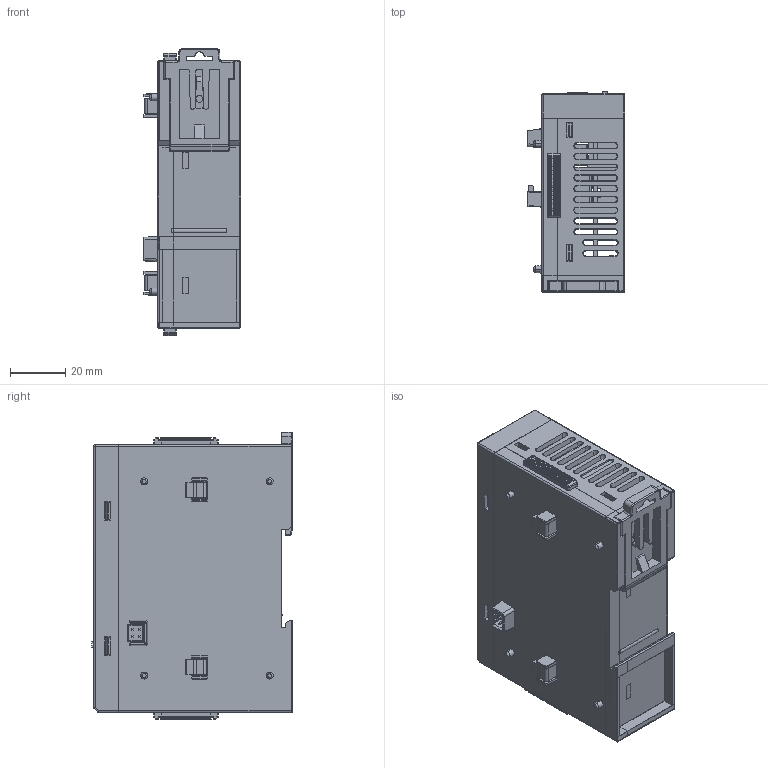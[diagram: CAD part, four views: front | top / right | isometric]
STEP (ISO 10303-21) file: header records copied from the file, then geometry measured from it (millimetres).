
FILE_DESCRIPTION((''),'2;1');
FILE_NAME('PLC-EXT-SIDE-ASM_ASM_ASM','2022-11-09T',('samkoon'),(''),'PRO/ENGINEER BY PARAMETRIC TECHNOLOGY CORPORATION, 2015240','PRO/ENGINEER BY PARAMETRIC TECHNOLOGY CORPORATION, 2015240','');
FILE_SCHEMA(('AUTOMOTIVE_DESIGN { 1 0 10303 214 1 1 1 1 }'));
Products named in the file (26): BOT-COVER-PLC-40IO-220228SIDE1_; TOP-COVER-PLC-EXT-SIDE_312; LEFT-COVER-PLC-EXT-SIDE_244; RIGHT-COVER-PLC-EXT-SIDE_300; PCB-DUAN-EXT-SIDE_75; 350-2PIN-NONESCREW_14; TERM-2PIN-TL_3; 381-10PIN-NONESCREW-MALE_16; PIN-SIDE-MALE_25; PCBA-DUAN-EXT-SIDE-ASM_ASM_95_ASM; PCB-USB-EXT-SIDE_66; SWITCH-1PIN_5; TYPE-C-WOSHI_8; PIN-SIDE-FEMALE01_13; PCBA-USB-EXT-SIDE-ASM_ASM_35_ASM; PCB-LED-EXT-SIDE_35; LED-0603_1; PCBA-LED-EXT-SIDE-ASM_ASM_40_ASM; PCBA-PLC-EXT-SIDE-ASM_ASM_22_ASM; SLIDING-LOCK-PLC-M2-0626_2; PLC-EXT-SIDE-BOT-LOCK_117; PLC-EXT-SIDE-TOP-LOCK_53; PC-PLC-EXT-SIDE_107; PC-PANEL-FAS-DECO_9; PLC-EXT-SIDE-ASM_ASM_444_ASM; PLC-EXT-SIDE-ASM_ASM_ASM
Assembly tree (48 placements, depth 5):
  PLC-EXT-SIDE-ASM_ASM_ASM
    PLC-EXT-SIDE-ASM_ASM_444_ASM
      BOT-COVER-PLC-40IO-220228SIDE1_
      TOP-COVER-PLC-EXT-SIDE_312
      LEFT-COVER-PLC-EXT-SIDE_244
      RIGHT-COVER-PLC-EXT-SIDE_300
      PCBA-PLC-EXT-SIDE-ASM_ASM_22_ASM
        PCBA-DUAN-EXT-SIDE-ASM_ASM_95_ASM
          PCB-DUAN-EXT-SIDE_75
          350-2PIN-NONESCREW_14
          TERM-2PIN-TL_3
          381-10PIN-NONESCREW-MALE_16  x2
          PIN-SIDE-MALE_25
        PCBA-USB-EXT-SIDE-ASM_ASM_35_ASM
          PCB-USB-EXT-SIDE_66
          SWITCH-1PIN_5
          TYPE-C-WOSHI_8
          PIN-SIDE-FEMALE01_13
        PCBA-LED-EXT-SIDE-ASM_ASM_40_ASM
          PCB-LED-EXT-SIDE_35
          LED-0603_1  x21
      SLIDING-LOCK-PLC-M2-0626_2
      PLC-EXT-SIDE-BOT-LOCK_117  x2
      PLC-EXT-SIDE-TOP-LOCK_53  x2
      PC-PLC-EXT-SIDE_107
      PC-PANEL-FAS-DECO_9
Bounding box: 35.3 x 72.7 x 104.05 mm (x, y, z)
Volume: 74790.3 mm3; surface area: 95120.7 mm2
Topology: 43 solids, 50 shells, 4682 faces, 12095 edges, 7651 vertices
Faces by surface type: plane 3341, cylinder 847, bspline 222, torus 102, cone 98, extrusion 46, sphere 26
Entity records: 135691 total; most frequent: CARTESIAN_POINT 27070, ORIENTED_EDGE 18426, DIRECTION 17041, EDGE_CURVE 9277, VECTOR 7793, LINE 7747, VERTEX_POINT 5953, AXIS2_PLACEMENT_3D 4624
